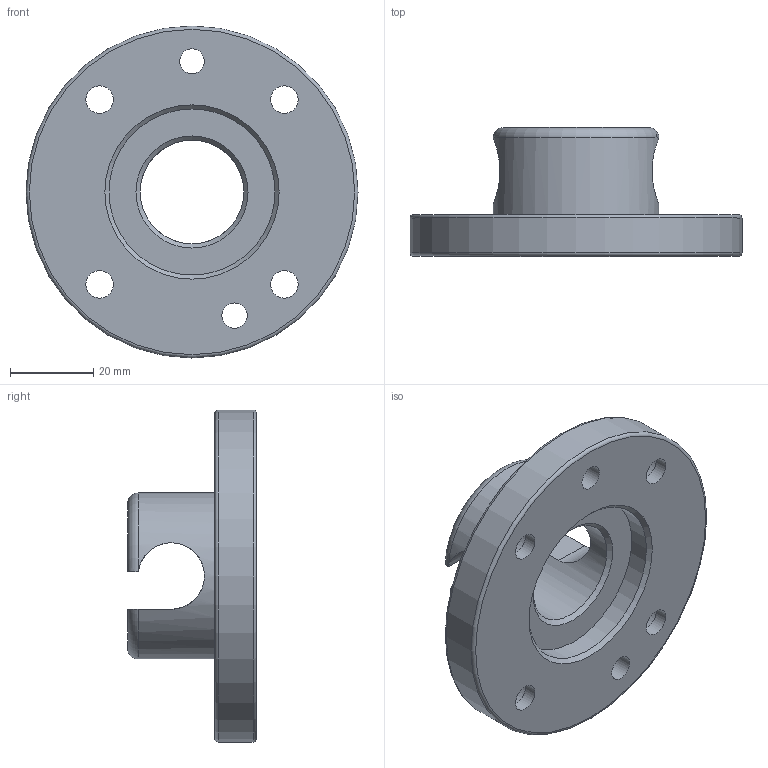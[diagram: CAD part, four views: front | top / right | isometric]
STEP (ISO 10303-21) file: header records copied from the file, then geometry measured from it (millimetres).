
FILE_DESCRIPTION(/* description */ (''),/* implementation_level */ '2;1');
FILE_NAME(/* name */ 'G-MGW080-2U-N.stp',/* time_stamp */ '2023-11-08T10:00:30+01:00',/* author */ ('ysplieth'),/* organization */ (''),/* preprocessor_version */ 'ST-DEVELOPER v20',/* originating_system */ 'Autodesk Inventor 2024',/* authorisation */ '');
FILE_SCHEMA (('AUTOMOTIVE_DESIGN { 1 0 10303 214 3 1 1 }'));
Length unit declared in the file: millimetre
Products named in the file (1): Bauteil3
Bounding box: 80 x 31 x 80 mm (x, y, z)
Volume: 49199.9 mm3; surface area: 17370 mm2
Topology: 1 solids, 1 shells, 37 faces, 88 edges, 58 vertices
Faces by surface type: cylinder 16, plane 13, torus 4, cone 4
Full cylindrical faces by diameter (mm): 6 x1, 6.1 x1, 6.6 x4, 11 x4, 25 x1, 40 x2, 80 x1
Entity records: 1319 total; most frequent: CARTESIAN_POINT 330, DIRECTION 192, ORIENTED_EDGE 176, EDGE_CURVE 88, AXIS2_PLACEMENT_3D 80, VERTEX_POINT 58, EDGE_LOOP 56, CIRCLE 42
